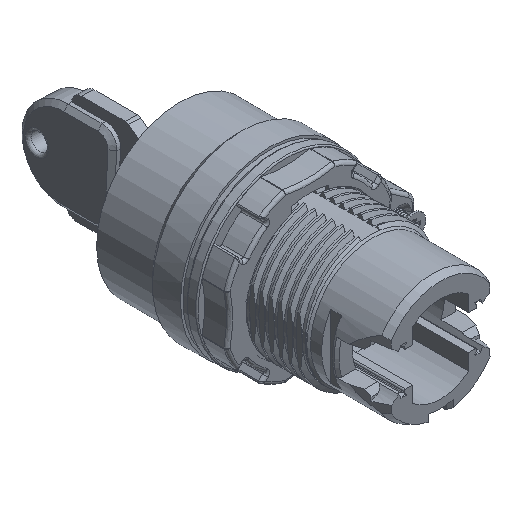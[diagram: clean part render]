
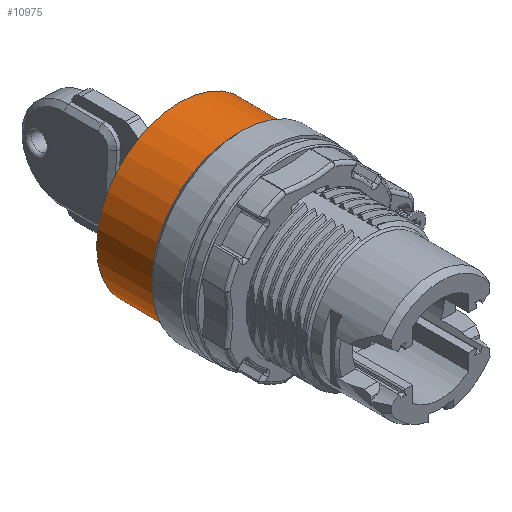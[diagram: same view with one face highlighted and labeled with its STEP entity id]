
A CAD part, isometric view. The second image highlights one B-rep face of the part: STEP entity #10975.
In plain terms, the highlighted cylindrical face has radius 13.4 mm (diameter 26.8 mm), a full revolution.
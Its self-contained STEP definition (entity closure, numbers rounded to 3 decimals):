
#8557=FACE_BOUND('',#13725,.T.);
#8558=FACE_BOUND('',#13726,.T.);
#9627=CYLINDRICAL_SURFACE('',#29674,13.4);
#10097=CIRCLE('',#29670,13.4);
#10098=CIRCLE('',#29672,13.4);
#10975=ADVANCED_FACE('',(#8557,#8558),#9627,.T.);
#13725=EDGE_LOOP('',(#15694));
#13726=EDGE_LOOP('',(#15695));
#15694=ORIENTED_EDGE('',*,*,#23683,.T.);
#15695=ORIENTED_EDGE('',*,*,#23684,.T.);
#21488=VERTEX_POINT('',#37748);
#21489=VERTEX_POINT('',#37751);
#23683=EDGE_CURVE('',#21488,#21488,#10097,.T.);
#23684=EDGE_CURVE('',#21489,#21489,#10098,.T.);
#29670=AXIS2_PLACEMENT_3D('',#37747,#32146,#32147);
#29672=AXIS2_PLACEMENT_3D('',#37750,#32150,#32151);
#29674=AXIS2_PLACEMENT_3D('',#37753,#32154,#32155);
#32146=DIRECTION('',(0.,-1.,0.));
#32147=DIRECTION('',(0.,0.,1.));
#32150=DIRECTION('',(0.,1.,0.));
#32151=DIRECTION('',(0.,0.,1.));
#32154=DIRECTION('',(0.,1.,0.));
#32155=DIRECTION('',(0.,0.,1.));
#37747=CARTESIAN_POINT('',(-7.056,22.875,35.529));
#37748=CARTESIAN_POINT('',(-7.056,22.875,48.929));
#37750=CARTESIAN_POINT('',(-7.056,13.875,35.529));
#37751=CARTESIAN_POINT('',(-7.056,13.875,48.929));
#37753=CARTESIAN_POINT('',(-7.056,16.125,35.529));
